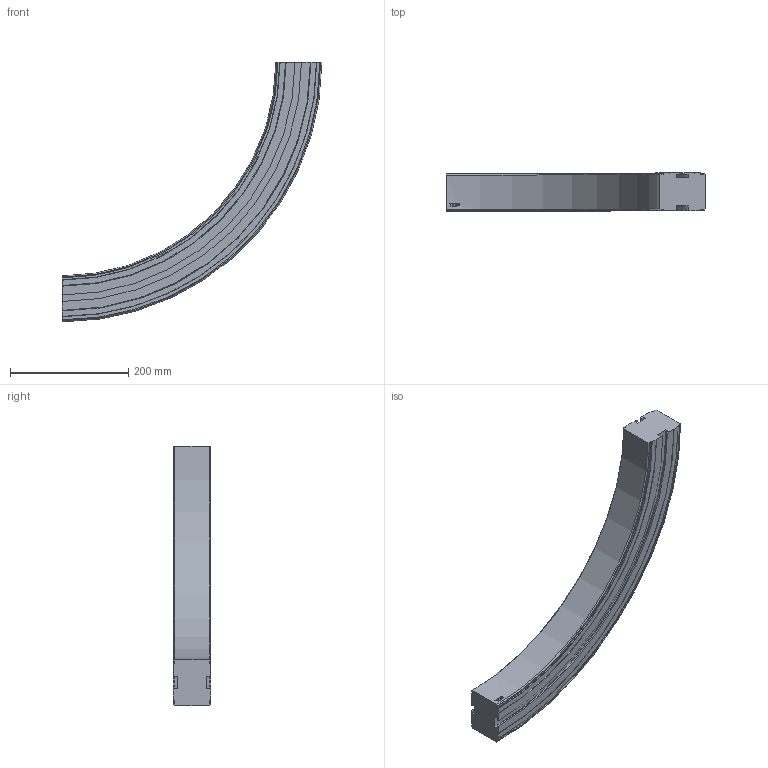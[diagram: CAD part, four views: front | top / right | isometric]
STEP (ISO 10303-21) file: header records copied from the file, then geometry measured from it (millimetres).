
FILE_DESCRIPTION((''),'2;1');
FILE_NAME('C:\Vault Klient\Projekt\Koncept konstruktion\Serie 620 Balk\620-5640_UP.stp','2009-11-26T15:49:38',('Mathias'),(''),'Autodesk Inventor 2010','Autodesk Inventor 2010','');
FILE_SCHEMA(('AUTOMOTIVE_DESIGN { 1 0 10303 214 1 1 1 1 }'));
Length unit declared in the file: millimetre
Products named in the file (1): 620-5640_UP
Bounding box: 440 x 64 x 440 mm (x, y, z)
Volume: 2929189.5 mm3; surface area: 236268.1 mm2
Topology: 1 solids, 1 shells, 93 faces, 258 edges, 172 vertices
Faces by surface type: plane 40, cylinder 23, bspline 14, cone 12, torus 4
Entity records: 3370 total; most frequent: CARTESIAN_POINT 935, ORIENTED_EDGE 516, DIRECTION 472, EDGE_CURVE 258, VERTEX_POINT 172, AXIS2_PLACEMENT_3D 162, VECTOR 148, LINE 148
